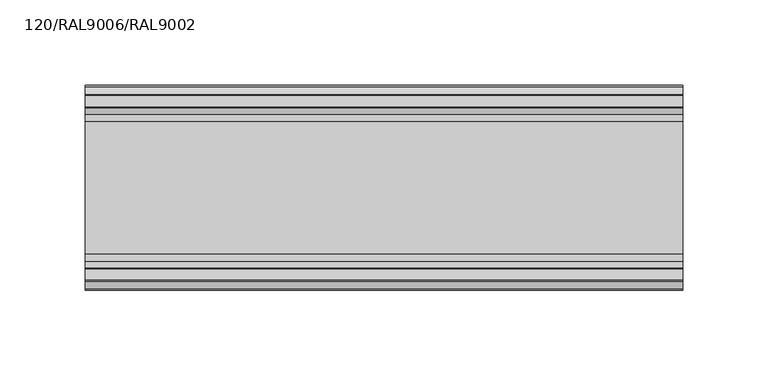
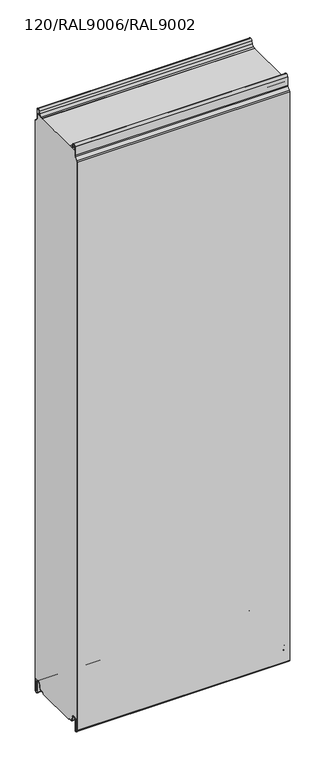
"""IFC4 building model written with IfcOpenShell, lengths in millimetres: plate geometry, TR_C_H_FTV_Panel : 120/RAL9006/RAL9002."""

from ifc_helpers import new_model, si_unit, point, frame, frame_2d, origin, place, context, project, spatial, polyline, circle_curve, trimmed, segment, composite_curve, outline, extrude, source, transform, mapped, element, save


def plate_120_ral9006_ral9002_a6f5208c(model_context):
    return source(origin(), model_context, "Body", "SweptSolid", [
        extrude(outline(composite_curve([segment(polyline([(-0.8, 14.4000012), (-9.45, 14.4000012)]), True, "CONTINUOUS"), segment(trimmed(circle_curve(frame_2d((-9.45, 10.1500012)), 4.25), [point((-9.45, 14.4000012))], [point((-13.635433, 10.8880059))], True, "CARTESIAN"), True, "CONTINUOUS"), segment(polyline([(-13.635433, 10.8880059), (-14.7022582, 4.837739)]), True, "CONTINUOUS"), segment(trimmed(circle_curve(frame_2d((-17.6074411, 5.3500012)), 2.95), [point((-14.7022582, 4.837739))], [point((-17.6074411, 2.4000012))], False, "CARTESIAN"), True, "CONTINUOUS"), segment(polyline([(-17.6074411, 2.4000012), (-23.7, 2.4000012), (-23.7, 1.2e-06), (-96.3, 1.2e-06), (-96.3, 2.4000012), (-102.3925589, 2.4000012)]), True, "CONTINUOUS"), segment(trimmed(circle_curve(frame_2d((-102.3925589, 5.3500012)), 2.95), [point((-102.3925589, 2.4000012))], [point((-105.2977418, 4.837739))], False, "CARTESIAN"), True, "CONTINUOUS"), segment(polyline([(-105.2977418, 4.837739), (-106.364567, 10.8880059)]), True, "CONTINUOUS"), segment(trimmed(circle_curve(frame_2d((-110.55, 10.1500012)), 4.25), [point((-106.364567, 10.8880059))], [point((-110.55, 14.4000012))], True, "CARTESIAN"), True, "CONTINUOUS"), segment(polyline([(-110.55, 14.4000012), (-119.2, 14.4000012), (-119.2, 984.3218266)]), True, "CONTINUOUS"), segment(trimmed(circle_curve(frame_2d((-117.0, 984.3218266)), 2.2), [point((-119.2, 984.3218266))], [point((-118.5556349, 985.8774615))], False, "CARTESIAN"), True, "CONTINUOUS"), segment(polyline([(-118.5556349, 985.8774615), (-114.1665476, 990.2665488)]), True, "CONTINUOUS"), segment(trimmed(circle_curve(frame_2d((-116.5, 992.6000012)), 3.3), [point((-114.1665476, 990.2665488))], [point((-113.2, 992.6000012))], True, "CARTESIAN"), True, "CONTINUOUS"), segment(polyline([(-113.2, 992.6000012), (-113.2, 1000.0), (-6.8, 1000.0), (-6.8, 992.6000012)]), True, "CONTINUOUS"), segment(trimmed(circle_curve(frame_2d((-3.5, 992.6000012)), 3.3), [point((-6.8, 992.6000012))], [point((-5.8334524, 990.2665488))], True, "CARTESIAN"), True, "CONTINUOUS"), segment(polyline([(-5.8334524, 990.2665488), (-1.4443651, 985.8774615)]), True, "CONTINUOUS"), segment(trimmed(circle_curve(frame_2d((-3.0, 984.3218266)), 2.2), [point((-1.4443651, 985.8774615))], [point((-0.8, 984.3218266))], False, "CARTESIAN"), True, "CONTINUOUS"), segment(polyline([(-0.8, 984.3218266), (-0.8, 14.4000012)]), True, "CONTINUOUS")], self_intersect=False)), frame((-240.0, 0.0, 0.0), z_axis=(1.0, 0.0, 0.0), x_axis=(0.0, 1.0, 0.0)), (0.0, 0.0, 1.0), 350.0),
        extrude(outline(composite_curve([segment(polyline([(-21.0, 2.4000012), (-17.6074411, 2.4000012)]), True, "CONTINUOUS"), segment(trimmed(circle_curve(frame_2d((-17.6074411, 5.3500012)), 2.95), [point((-17.6074411, 2.4000012))], [point((-14.7022582, 4.837739))], True, "CARTESIAN"), True, "CONTINUOUS"), segment(polyline([(-14.7022582, 4.837739), (-13.635433, 10.8880059)]), True, "CONTINUOUS"), segment(trimmed(circle_curve(frame_2d((-9.45, 10.1500012)), 4.25), [point((-13.635433, 10.8880059))], [point((-5.2, 10.1500012))], False, "CARTESIAN"), True, "CONTINUOUS"), segment(polyline([(-5.2, 10.1500012), (-5.2, -7.4499988)]), True, "CONTINUOUS"), segment(trimmed(circle_curve(frame_2d((-4.05, -7.4499988)), 1.15), [point((-5.2, -7.4499988))], [point((-3.2368272, -8.2631716))], True, "CARTESIAN"), True, "CONTINUOUS"), segment(polyline([(-3.2368272, -8.2631716), (-1.3711418, -6.3974862)]), True, "CONTINUOUS"), segment(trimmed(circle_curve(frame_2d((-2.75, -5.018628)), 1.95), [point((-1.3711418, -6.3974862))], [point((-0.8, -5.018628))], True, "CARTESIAN"), True, "CONTINUOUS"), segment(polyline([(-0.8, -5.018628), (-0.8, 984.3218266)]), True, "CONTINUOUS"), segment(trimmed(circle_curve(frame_2d((-3.0, 984.3218266)), 2.2), [point((-0.8, 984.3218266))], [point((-1.4443651, 985.8774615))], True, "CARTESIAN"), True, "CONTINUOUS"), segment(polyline([(-1.4443651, 985.8774615), (-5.8334524, 990.2665488)]), True, "CONTINUOUS"), segment(trimmed(circle_curve(frame_2d((-3.5, 992.6000012)), 3.3), [point((-5.8334524, 990.2665488))], [point((-6.8, 992.6000012))], False, "CARTESIAN"), True, "CONTINUOUS"), segment(polyline([(-6.8, 992.6000012), (-6.8, 1007.3500012)]), True, "CONTINUOUS"), segment(trimmed(circle_curve(frame_2d((-9.25, 1007.3500012)), 2.45), [point((-6.8, 1007.3500012))], [point((-11.662779, 1007.7754392))], True, "CARTESIAN"), True, "CONTINUOUS"), segment(polyline([(-11.662779, 1007.7754392), (-12.4060919, 1003.559902)]), True, "CONTINUOUS"), segment(trimmed(circle_curve(frame_2d((-16.8869672, 1004.3500012)), 4.55), [point((-12.4060919, 1003.559902))], [point((-16.8869672, 999.8000012))], False, "CARTESIAN"), True, "CONTINUOUS"), segment(polyline([(-16.8869672, 999.8000012), (-21.0, 999.8000012), (-21.0, 1000.6000012), (-16.8869672, 1000.6000012)]), True, "CONTINUOUS"), segment(trimmed(circle_curve(frame_2d((-16.8869672, 1004.3500012)), 3.75), [point((-16.8869672, 1000.6000012))], [point((-13.1939382, 1003.6988205))], True, "CARTESIAN"), True, "CONTINUOUS"), segment(polyline([(-13.1939382, 1003.6988205), (-12.4506252, 1007.9143577)]), True, "CONTINUOUS"), segment(trimmed(circle_curve(frame_2d((-9.25, 1007.3500012)), 3.25), [point((-12.4506252, 1007.9143577))], [point((-6.0, 1007.3500012))], False, "CARTESIAN"), True, "CONTINUOUS"), segment(polyline([(-6.0, 1007.3500012), (-6.0, 992.6000012)]), True, "CONTINUOUS"), segment(trimmed(circle_curve(frame_2d((-3.5, 992.6000012)), 2.5), [point((-6.0, 992.6000012))], [point((-5.267767, 990.8322342))], True, "CARTESIAN"), True, "CONTINUOUS"), segment(polyline([(-5.267767, 990.8322342), (-0.8786797, 986.4431469)]), True, "CONTINUOUS"), segment(trimmed(circle_curve(frame_2d((-3.0, 984.3218266)), 3.0), [point((-0.8786797, 986.4431469))], [point((0.0, 984.3218266))], False, "CARTESIAN"), True, "CONTINUOUS"), segment(polyline([(0.0, 984.3218266), (0.0, -5.018628)]), True, "CONTINUOUS"), segment(trimmed(circle_curve(frame_2d((-2.75, -5.018628)), 2.75), [point((0.0, -5.018628))], [point((-0.8054564, -6.9631716))], False, "CARTESIAN"), True, "CONTINUOUS"), segment(polyline([(-0.8054564, -6.9631716), (-2.6711418, -8.8288571)]), True, "CONTINUOUS"), segment(trimmed(circle_curve(frame_2d((-4.05, -7.4499988)), 1.95), [point((-2.6711418, -8.8288571))], [point((-6.0, -7.4499988))], False, "CARTESIAN"), True, "CONTINUOUS"), segment(polyline([(-6.0, -7.4499988), (-6.0, 10.1500012)]), True, "CONTINUOUS"), segment(trimmed(circle_curve(frame_2d((-9.45, 10.1500012)), 3.45), [point((-6.0, 10.1500012))], [point((-12.8475867, 10.7490874))], True, "CARTESIAN"), True, "CONTINUOUS"), segment(polyline([(-12.8475867, 10.7490874), (-13.914412, 4.6988205)]), True, "CONTINUOUS"), segment(trimmed(circle_curve(frame_2d((-17.6074411, 5.3500012)), 3.75), [point((-13.914412, 4.6988205))], [point((-17.6074411, 1.6000012))], False, "CARTESIAN"), True, "CONTINUOUS"), segment(polyline([(-17.6074411, 1.6000012), (-21.0, 1.6000012), (-21.0, 2.4000012)]), True, "CONTINUOUS")], self_intersect=False)), frame((-240.0, 0.0, 0.0), z_axis=(1.0, 0.0, 0.0), x_axis=(0.0, 1.0, 0.0)), (0.0, 0.0, 1.0), 350.0),
        extrude(outline(composite_curve([segment(trimmed(circle_curve(frame_2d((-103.1130328, 1004.3500012)), 4.55), [point((-103.1130328, 999.8000012))], [point((-107.5939081, 1003.559902))], False, "CARTESIAN"), True, "CONTINUOUS"), segment(polyline([(-107.5939081, 1003.559902), (-108.337221, 1007.7754392)]), True, "CONTINUOUS"), segment(trimmed(circle_curve(frame_2d((-110.75, 1007.3500012)), 2.45), [point((-108.337221, 1007.7754392))], [point((-113.2, 1007.3500012))], True, "CARTESIAN"), True, "CONTINUOUS"), segment(polyline([(-113.2, 1007.3500012), (-113.2, 992.6000012)]), True, "CONTINUOUS"), segment(trimmed(circle_curve(frame_2d((-116.5, 992.6000012)), 3.3), [point((-113.2, 992.6000012))], [point((-114.1665476, 990.2665488))], False, "CARTESIAN"), True, "CONTINUOUS"), segment(polyline([(-114.1665476, 990.2665488), (-118.5556349, 985.8774615)]), True, "CONTINUOUS"), segment(trimmed(circle_curve(frame_2d((-117.0, 984.3218266)), 2.2), [point((-118.5556349, 985.8774615))], [point((-119.2, 984.3218266))], True, "CARTESIAN"), True, "CONTINUOUS"), segment(polyline([(-119.2, 984.3218266), (-119.2, -5.018628)]), True, "CONTINUOUS"), segment(trimmed(circle_curve(frame_2d((-117.25, -5.018628)), 1.95), [point((-119.2, -5.018628))], [point((-118.6288582, -6.3974862))], True, "CARTESIAN"), True, "CONTINUOUS"), segment(polyline([(-118.6288582, -6.3974862), (-116.7631728, -8.2631716)]), True, "CONTINUOUS"), segment(trimmed(circle_curve(frame_2d((-115.95, -7.4499988)), 1.15), [point((-116.7631728, -8.2631716))], [point((-114.8, -7.4499988))], True, "CARTESIAN"), True, "CONTINUOUS"), segment(polyline([(-114.8, -7.4499988), (-114.8, 10.1500012)]), True, "CONTINUOUS"), segment(trimmed(circle_curve(frame_2d((-110.55, 10.1500012)), 4.25), [point((-114.8, 10.1500012))], [point((-106.364567, 10.8880059))], False, "CARTESIAN"), True, "CONTINUOUS"), segment(polyline([(-106.364567, 10.8880059), (-105.2977418, 4.837739)]), True, "CONTINUOUS"), segment(trimmed(circle_curve(frame_2d((-102.3925589, 5.3500012)), 2.95), [point((-105.2977418, 4.837739))], [point((-102.3925589, 2.4000012))], True, "CARTESIAN"), True, "CONTINUOUS"), segment(polyline([(-102.3925589, 2.4000012), (-99.0, 2.4000012), (-99.0, 1.6000012), (-102.3925589, 1.6000012)]), True, "CONTINUOUS"), segment(trimmed(circle_curve(frame_2d((-102.3925589, 5.3500012)), 3.75), [point((-102.3925589, 1.6000012))], [point((-106.085588, 4.6988205))], False, "CARTESIAN"), True, "CONTINUOUS"), segment(polyline([(-106.085588, 4.6988205), (-107.1524133, 10.7490874)]), True, "CONTINUOUS"), segment(trimmed(circle_curve(frame_2d((-110.55, 10.1500012)), 3.45), [point((-107.1524133, 10.7490874))], [point((-114.0, 10.1500012))], True, "CARTESIAN"), True, "CONTINUOUS"), segment(polyline([(-114.0, 10.1500012), (-114.0, -7.4499988)]), True, "CONTINUOUS"), segment(trimmed(circle_curve(frame_2d((-115.95, -7.4499988)), 1.95), [point((-114.0, -7.4499988))], [point((-117.3288582, -8.8288571))], False, "CARTESIAN"), True, "CONTINUOUS"), segment(polyline([(-117.3288582, -8.8288571), (-119.1945436, -6.9631716)]), True, "CONTINUOUS"), segment(trimmed(circle_curve(frame_2d((-117.25, -5.018628)), 2.75), [point((-119.1945436, -6.9631716))], [point((-120.0, -5.018628))], False, "CARTESIAN"), True, "CONTINUOUS"), segment(polyline([(-120.0, -5.018628), (-120.0, 984.3218266)]), True, "CONTINUOUS"), segment(trimmed(circle_curve(frame_2d((-117.0, 984.3218266)), 3.0), [point((-120.0, 984.3218266))], [point((-119.1213203, 986.4431469))], False, "CARTESIAN"), True, "CONTINUOUS"), segment(polyline([(-119.1213203, 986.4431469), (-114.732233, 990.8322342)]), True, "CONTINUOUS"), segment(trimmed(circle_curve(frame_2d((-116.5, 992.6000012)), 2.5), [point((-114.732233, 990.8322342))], [point((-114.0, 992.6000012))], True, "CARTESIAN"), True, "CONTINUOUS"), segment(polyline([(-114.0, 992.6000012), (-114.0, 1007.3500012)]), True, "CONTINUOUS"), segment(trimmed(circle_curve(frame_2d((-110.75, 1007.3500012)), 3.25), [point((-114.0, 1007.3500012))], [point((-107.5493748, 1007.9143577))], False, "CARTESIAN"), True, "CONTINUOUS"), segment(polyline([(-107.5493748, 1007.9143577), (-106.8060618, 1003.6988205)]), True, "CONTINUOUS"), segment(trimmed(circle_curve(frame_2d((-103.1130328, 1004.3500012)), 3.75), [point((-106.8060618, 1003.6988205))], [point((-103.1130328, 1000.6000012))], True, "CARTESIAN"), True, "CONTINUOUS"), segment(polyline([(-103.1130328, 1000.6000012), (-99.0, 1000.6000012), (-99.0, 999.8000012), (-103.1130328, 999.8000012)]), True, "CONTINUOUS")], self_intersect=False)), frame((-240.0, 0.0, 0.0), z_axis=(1.0, 0.0, 0.0), x_axis=(0.0, 1.0, 0.0)), (0.0, 0.0, 1.0), 350.0),
    ])


if __name__ == "__main__":
    model = new_model("IFC4")
    model_context = context("Model", 3, world=origin())
    ifc_project = project(units=[si_unit("LENGTHUNIT", "METRE", prefix="MILLI")], contexts=[model_context])
    site = spatial("IfcSite", under=ifc_project)
    building = spatial("IfcBuilding", under=site)
    placement = place(None, origin())
    plate_120_ral9006_ral9002_shape = plate_120_ral9006_ral9002_a6f5208c(model_context)
    element("IfcPlate", 1, ObjectType="TR_C_H_FTV_Panel : 120/RAL9006/RAL9002", at=placement, inside=building, context=model_context, shape_type="MappedRepresentation", body=[
        mapped(plate_120_ral9006_ral9002_shape, transform((0.0, 0.0, 0.0), x_axis=(1.0, 0.0, 0.0), y_axis=(0.0, 1.0, 0.0), z_axis=(0.0, 0.0, 1.0))),
    ])
    save(model, "model.ifc")
